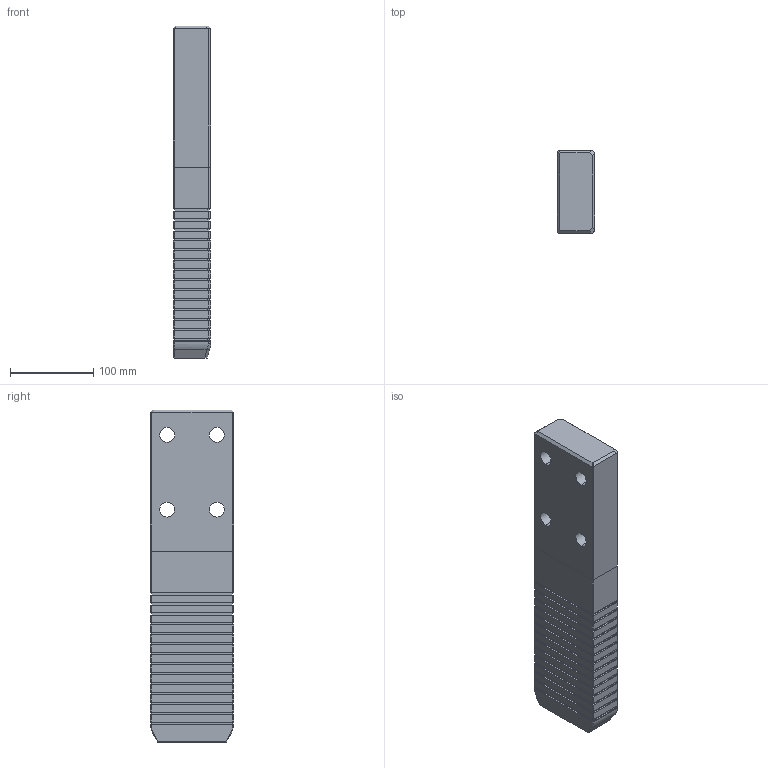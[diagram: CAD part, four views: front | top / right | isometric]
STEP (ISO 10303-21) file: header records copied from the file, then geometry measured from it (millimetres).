
FILE_DESCRIPTION((''),'2;1');
FILE_NAME('','2010-09-22T13:23:45+09:00',('misumi'),(''),'M/STEP i/f 1R2-14','CADmeister v5.1','');
FILE_SCHEMA(('AUTOMOTIVE_DESIGN'));
Length unit declared in the file: millimetre
Products named in the file (1): GWAZ100-400
Bounding box: 45 x 100 x 400 mm (x, y, z)
Volume: 1719029.2 mm3; surface area: 141940.9 mm2
Topology: 1 solids, 1 shells, 308 faces, 811 edges, 534 vertices
Faces by surface type: plane 287, cylinder 13, bspline 6, cone 2
Entity records: 9692 total; most frequent: CARTESIAN_POINT 1994, ORIENTED_EDGE 1618, DIRECTION 1425, EDGE_CURVE 809, LINE 767, VECTOR 767, VERTEX_POINT 532, EDGE_LOOP 345
